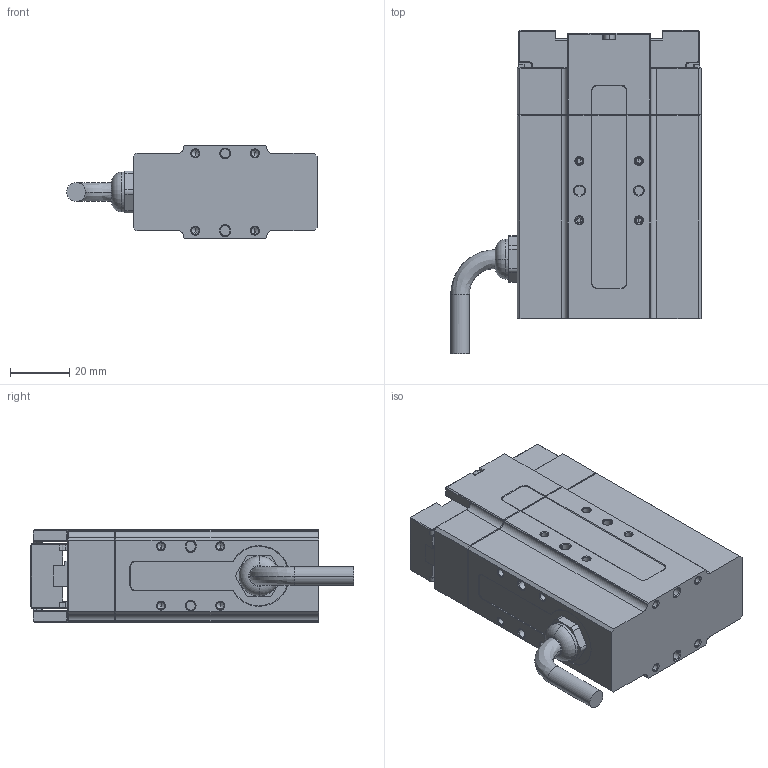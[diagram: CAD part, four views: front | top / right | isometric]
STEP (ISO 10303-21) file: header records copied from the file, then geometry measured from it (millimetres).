
FILE_DESCRIPTION (( 'STEP AP214' ), '1' );
FILE_NAME ('PGE8_20201117.STEP', '2020-11-17T02:36:52', ( 'Windows User' ), ( 'P R C' ), 'SwSTEP 2.0', 'SolidWorks 2016', '' );
FILE_SCHEMA (( 'AUTOMOTIVE_DESIGN' ));
Length unit declared in the file: millimetre
Products named in the file (3): PGE8_20201117; PGE8 FINGER; PGE-8 BODY
Assembly tree (3 placements, depth 2):
  PGE8_20201117
    PGE-8 BODY
    PGE8 FINGER  x2
Bounding box: 84.31 x 108.85 x 31 mm (x, y, z)
Volume: 154375.7 mm3; surface area: 32145.3 mm2
Topology: 3 solids, 6 shells, 839 faces, 2061 edges, 1249 vertices
Faces by surface type: plane 450, cylinder 204, cone 177, torus 6, bspline 2
Entity records: 29660 total; most frequent: CARTESIAN_POINT 3839, DIRECTION 3802, ORIENTED_EDGE 3558, EDGE_CURVE 1779, AXIS2_PLACEMENT_3D 1307, VECTOR 1188, LINE 1188, VERTEX_POINT 1094
